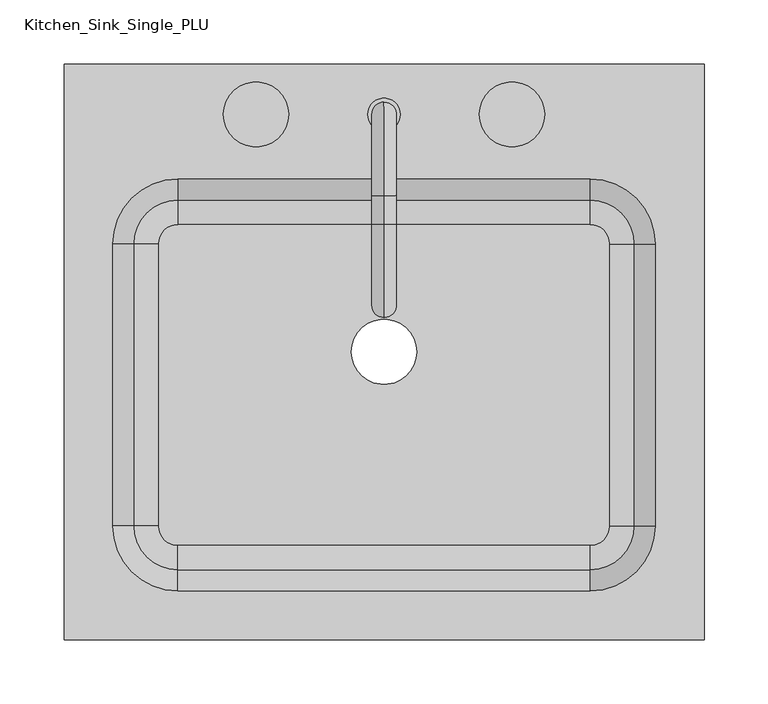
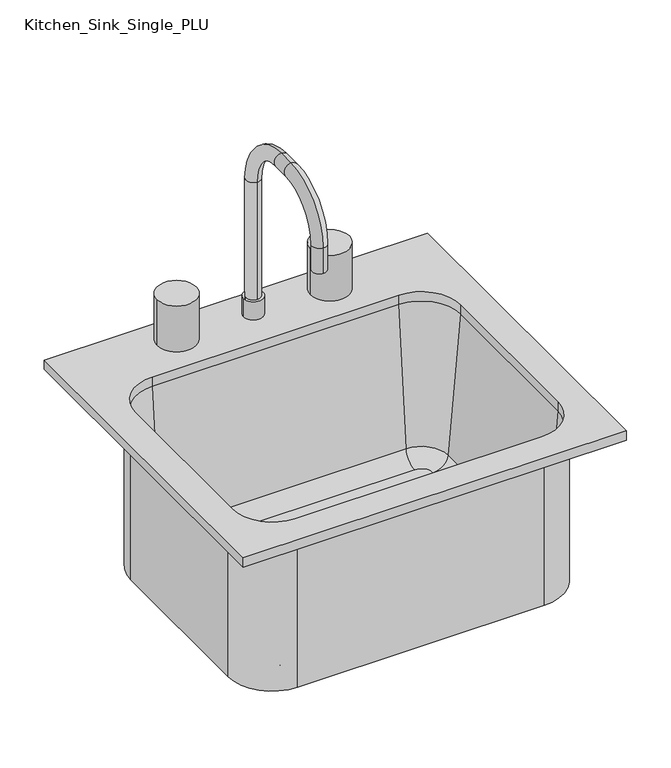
"""IFC4 building model written with IfcOpenShell, lengths in millimetres: flow terminal geometry, Kitchen_Sink_Single_PLU : Kitchen  Sink."""

from ifc_helpers import new_model, si_unit, point, frame, frame_2d, origin, origin_with_axes, place, context, project, spatial, polyline, circle_curve, ellipse_curve, trimmed, segment, composite_curve, outline, extrude, source, transform, mapped, element, save
from ifc_brep_helpers import plane_surface, cylinder_surface, revolved_surface, advanced_brep


def kitchen_sink_single_plu_7881db86(model_context):
    return source(origin(), model_context, "Body", "SolidModel", [
        extrude(outline(polyline([(250.0, 225.0), (250.0, -225.0), (-250.0, -225.0), (-250.0, 225.0), (250.0, 225.0)]), holes=[composite_curve([segment(polyline([(161.1, 135.0710828), (-161.1, 135.0710828)]), True, "CONTINUOUS"), segment(trimmed(circle_curve(frame_2d((-161.1, 84.2710828)), 50.8), [point((-161.1, 135.0710828))], [point((-211.9, 84.2710828))], True, "CARTESIAN"), True, "CONTINUOUS"), segment(polyline([(-211.9, 84.2710828), (-211.9, -136.1)]), True, "CONTINUOUS"), segment(trimmed(circle_curve(frame_2d((-161.1, -136.1)), 50.8), [point((-211.9, -136.1))], [point((-161.1, -186.9))], True, "CARTESIAN"), True, "CONTINUOUS"), segment(polyline([(-161.1, -186.9), (161.1, -186.9)]), True, "CONTINUOUS"), segment(trimmed(circle_curve(frame_2d((161.1, -136.1)), 50.8), [point((161.1, -186.9))], [point((211.9, -136.1))], True, "CARTESIAN"), True, "CONTINUOUS"), segment(polyline([(211.9, -136.1), (211.9, 84.2710828)]), True, "CONTINUOUS"), segment(trimmed(circle_curve(frame_2d((161.1, 84.2710828)), 50.8), [point((211.9, 84.2710828))], [point((161.1, 135.0710828))], True, "CARTESIAN"), True, "CONTINUOUS")], self_intersect=False)]), origin_with_axes(), (0.0, 0.0, 1.0), 12.7),
        extrude(outline(composite_curve([segment(trimmed(circle_curve(frame_2d((0.0, 185.59958)), 12.7), [point((-12.7, 185.59958))], [point((12.7, 185.59958))], False, "CARTESIAN"), True, "CONTINUOUS"), segment(trimmed(circle_curve(frame_2d((0.0, 185.59958)), 12.7), [point((12.7, 185.59958))], [point((-12.7, 185.59958))], False, "CARTESIAN"), True, "CONTINUOUS")], self_intersect=False)), frame((0.0, 0.0, 12.7), z_axis=(0.0, 0.0, 1.0), x_axis=(1.0, 0.0, 0.0)), (0.0, 0.0, 1.0), 25.4),
        advanced_brep(
        [(0.0, 195.12458, 12.7), (0.0, 176.07458, 12.7), (0.0, 195.12458, 200.025), (0.0, 176.07458, 200.025), (0.0, 122.09958, 254.0), (0.0, 122.09958, 273.05), (0.0, 99.87458, 273.05), (0.0, 99.87458, 254.0), (0.0, 45.89958, 200.025), (0.0, 26.84958, 200.025), (0.0, 26.84958, 165.1), (0.0, 45.89958, 165.1)],
        [
            (0, 1, circle_curve(frame((0.0, 185.59958, 12.7), z_axis=(0.0, 0.0, -1.0), x_axis=(0.0, -1.0, 0.0)), 9.525)),
            (1, 0, circle_curve(frame((0.0, 185.59958, 12.7), z_axis=(0.0, 0.0, -1.0), x_axis=(0.0, -1.0, 0.0)), 9.525)),
            (0, 2),
            (2, 3, circle_curve(frame((0.0, 185.59958, 200.025), z_axis=(0.0, 0.0, -1.0), x_axis=(0.0, -1.0, 0.0)), 9.525)),
            (3, 1),
            (3, 2, circle_curve(frame((0.0, 185.59958, 200.025), z_axis=(0.0, 0.0, -1.0), x_axis=(0.0, -1.0, 0.0)), 9.525)),
            (4, 3, circle_curve(frame((0.0, 122.09958, 200.025), z_axis=(-1.0, 0.0, 0.0), x_axis=(0.0, 1.0, 0.0)), 53.975)),
            (2, 5, circle_curve(frame((0.0, 122.09958, 200.025), z_axis=(1.0, 0.0, 0.0), x_axis=(0.0, 1.0, 0.0)), 73.025)),
            (5, 4, circle_curve(frame((0.0, 122.09958, 263.525), z_axis=(0.0, 1.0, 0.0), x_axis=(0.0, 0.0, -1.0)), 9.525)),
            (4, 5, circle_curve(frame((0.0, 122.09958, 263.525), z_axis=(0.0, 1.0, 0.0), x_axis=(0.0, 0.0, -1.0)), 9.525)),
            (5, 6),
            (6, 7, circle_curve(frame((0.0, 99.87458, 263.525), z_axis=(0.0, 1.0, 0.0), x_axis=(0.0, 0.0, -1.0)), 9.525)),
            (7, 4),
            (7, 6, circle_curve(frame((0.0, 99.87458, 263.525), z_axis=(0.0, 1.0, 0.0), x_axis=(0.0, 0.0, -1.0)), 9.525)),
            (8, 7, circle_curve(frame((0.0, 99.87458, 200.025), z_axis=(-1.0, 0.0, 0.0), x_axis=(0.0, 0.0, 1.0)), 53.975)),
            (6, 9, circle_curve(frame((0.0, 99.87458, 200.025), z_axis=(1.0, 0.0, 0.0), x_axis=(0.0, 0.0, 1.0)), 73.025)),
            (9, 8, circle_curve(frame((0.0, 36.37458, 200.025), z_axis=(0.0, 0.0, 1.0), x_axis=(0.0, 1.0, 0.0)), 9.525)),
            (8, 9, circle_curve(frame((0.0, 36.37458, 200.025), z_axis=(0.0, 0.0, 1.0), x_axis=(0.0, 1.0, 0.0)), 9.525)),
            (10, 11, circle_curve(frame((0.0, 36.37458, 165.1), z_axis=(0.0, 0.0, -1.0), x_axis=(0.0, 1.0, 0.0)), 9.525)),
            (11, 10, circle_curve(frame((0.0, 36.37458, 165.1), z_axis=(0.0, 0.0, -1.0), x_axis=(0.0, 1.0, 0.0)), 9.525)),
            (9, 10),
            (11, 8),
        ],
        [
            plane_surface(frame((0.0, 176.07458, 12.7), z_axis=(0.0, 0.0, -1.0), x_axis=(1.0, 0.0, 0.0))),
            cylinder_surface(frame((0.0, 185.59958, 12.7), z_axis=(0.0, 0.0, -1.0), x_axis=(0.0, -1.0, 0.0)), 9.525),
            revolved_surface(trimmed(ellipse_curve(frame((0.0, 185.59958, 200.025), z_axis=(0.0, 0.0, -1.0), x_axis=(0.0, -1.0, 0.0)), 9.525, 9.525), [point((0.0, 195.12458, 200.025))], [point((0.0, 176.07458, 200.025))], True, "CARTESIAN"), (0.0, 122.09958, 200.025), (1.0, 0.0, 0.0)),
            revolved_surface(trimmed(ellipse_curve(frame((0.0, 185.59958, 200.025), z_axis=(0.0, 0.0, -1.0), x_axis=(0.0, -1.0, 0.0)), 9.525, 9.525), [point((0.0, 176.07458, 200.025))], [point((0.0, 195.12458, 200.025))], True, "CARTESIAN"), (0.0, 122.09958, 200.025), (1.0, 0.0, 0.0)),
            cylinder_surface(frame((0.0, 122.09958, 263.525), z_axis=(0.0, 1.0, 0.0), x_axis=(0.0, 0.0, -1.0)), 9.525),
            revolved_surface(trimmed(ellipse_curve(frame((0.0, 99.87458, 263.525), z_axis=(0.0, 1.0, 0.0), x_axis=(0.0, 0.0, -1.0)), 9.525, 9.525), [point((0.0, 99.87458, 273.05))], [point((0.0, 99.87458, 254.0))], True, "CARTESIAN"), (0.0, 99.87458, 200.025), (1.0, 0.0, 0.0)),
            revolved_surface(trimmed(ellipse_curve(frame((0.0, 99.87458, 263.525), z_axis=(0.0, 1.0, 0.0), x_axis=(0.0, 0.0, -1.0)), 9.525, 9.525), [point((0.0, 99.87458, 254.0))], [point((0.0, 99.87458, 273.05))], True, "CARTESIAN"), (0.0, 99.87458, 200.025), (1.0, 0.0, 0.0)),
            plane_surface(frame((0.0, 26.84958, 165.1), z_axis=(0.0, 0.0, -1.0), x_axis=(-1.0, 0.0, 0.0))),
            cylinder_surface(frame((0.0, 36.37458, 200.025), z_axis=(0.0, 0.0, 1.0), x_axis=(0.0, 1.0, 0.0)), 9.525),
        ],
        [
            (0, [[1, 2]]),
            (1, [[-1, 3, 4, 5]]),
            (1, [[-2, -5, 6, -3]]),
            (2, [[7, -4, 8, 9]]),
            (3, [[-8, -6, -7, 10]]),
            (4, [[-9, 11, 12, 13]]),
            (4, [[-10, -13, 14, -11]]),
            (5, [[15, -12, 16, 17]]),
            (6, [[-16, -14, -15, 18]]),
            (7, [[19, 20]]),
            (8, [[-17, 21, -20, 22]]),
            (8, [[-18, -22, -19, -21]]),
        ],
    ),
        extrude(outline(composite_curve([segment(trimmed(circle_curve(frame_2d((-100.0, 185.59958)), 25.4), [point((-125.4, 185.59958))], [point((-74.6, 185.59958))], False, "CARTESIAN"), True, "CONTINUOUS"), segment(trimmed(circle_curve(frame_2d((-100.0, 185.59958)), 25.4), [point((-74.6, 185.59958))], [point((-125.4, 185.59958))], False, "CARTESIAN"), True, "CONTINUOUS")], self_intersect=False)), frame((0.0, 0.0, 12.7), z_axis=(0.0, 0.0, 1.0), x_axis=(1.0, 0.0, 0.0)), (0.0, 0.0, 1.0), 63.5),
        extrude(outline(composite_curve([segment(trimmed(circle_curve(frame_2d((100.0, 185.59958)), 25.4), [point((74.6, 185.59958))], [point((125.4, 185.59958))], False, "CARTESIAN"), True, "CONTINUOUS"), segment(trimmed(circle_curve(frame_2d((100.0, 185.59958)), 25.4), [point((125.4, 185.59958))], [point((74.6, 185.59958))], False, "CARTESIAN"), True, "CONTINUOUS")], self_intersect=False)), frame((0.0, 0.0, 12.7), z_axis=(0.0, 0.0, 1.0), x_axis=(1.0, 0.0, 0.0)), (0.0, 0.0, 1.0), 63.5),
        advanced_brep(
        [(218.25, 84.2710828, -215.9), (161.1, 141.4210828, -215.9), (161.1, 141.4210828, 0.0), (218.25, 84.2710828, 0.0), (195.3659272, 84.2710828, -188.9853169), (161.1, 118.53701, -188.9853169), (161.1, 99.559501, -206.375), (176.3884182, 84.2710828, -206.375), (211.9, 84.2710828, 0.0), (161.1, 135.0710828, 0.0), (218.25, -136.1, 0.0), (218.25, -136.1, -215.9), (176.3884182, -136.1, -206.375), (195.3659272, -136.1, -188.9853169), (211.9, -136.1, 0.0), (161.1, -193.25, 0.0), (161.1, -193.25, -215.9), (161.1, -151.3884182, -206.375), (161.1, -170.3659272, -188.9853169), (161.1, -186.9, 0.0), (-161.1, -193.25, 0.0), (-161.1, -193.25, -215.9), (-161.1, -151.3884182, -206.375), (-161.1, -170.3659272, -188.9853169), (-161.1, -186.9, 0.0), (-218.25, -136.1, 0.0), (-218.25, -136.1, -215.9), (-176.3884182, -136.1, -206.375), (-195.3659272, -136.1, -188.9853169), (-211.9, -136.1, 0.0), (-218.25, 84.2710828, 0.0), (-218.25, 84.2710828, -215.9), (-176.3884182, 84.2710828, -206.375), (-195.3659272, 84.2710828, -188.9853169), (-211.9, 84.2710828, 0.0), (-161.1, 141.4210828, 0.0), (-161.1, 141.4210828, -215.9), (-161.1, 99.559501, -206.375), (-161.1, 118.53701, -188.9853169), (-161.1, 135.0710828, 0.0), (-25.4, 0.0, -215.9), (25.4, 0.0, -215.9), (-25.4, 0.0, -206.375), (25.4, 0.0, -206.375)],
        [
            (0, 1, circle_curve(frame((161.1, 84.2710828, -215.9), z_axis=(0.0, 0.0, 1.0), x_axis=(0.0, 1.0, 0.0)), 57.15)),
            (1, 2),
            (2, 3, circle_curve(frame((161.1, 84.2710828, 0.0), z_axis=(0.0, 0.0, -1.0), x_axis=(0.0, 1.0, 0.0)), 57.15)),
            (3, 0),
            (4, 5, circle_curve(frame((161.1, 84.2710828, -188.9853169), z_axis=(0.0, 0.0, 1.0), x_axis=(0.0, 1.0, 0.0)), 34.2659272)),
            (5, 6, circle_curve(frame((161.1, 99.559501, -187.325), z_axis=(-1.0, 0.0, 0.0), x_axis=(0.0, 1.0, 0.0)), 19.05)),
            (6, 7, circle_curve(frame((161.1, 84.2710828, -206.375), z_axis=(0.0, 0.0, -1.0), x_axis=(0.0, 1.0, 0.0)), 15.2884182)),
            (7, 4, circle_curve(frame((176.3884182, 84.2710828, -187.325), z_axis=(0.0, -1.0, 0.0), x_axis=(1.0, 0.0, 0.0)), 19.05)),
            (4, 8),
            (8, 9, circle_curve(frame((161.1, 84.2710828, 0.0), z_axis=(0.0, 0.0, 1.0), x_axis=(0.0, 1.0, 0.0)), 50.8)),
            (9, 5),
            (3, 10),
            (10, 11),
            (11, 0),
            (7, 12),
            (12, 13, circle_curve(frame((176.3884182, -136.1, -187.325), z_axis=(0.0, -1.0, 0.0), x_axis=(1.0, 0.0, 0.0)), 19.05)),
            (13, 4),
            (13, 14),
            (14, 8),
            (10, 15, circle_curve(frame((161.1, -136.1, 0.0), z_axis=(0.0, 0.0, -1.0), x_axis=(1.0, 0.0, 0.0)), 57.15)),
            (15, 16),
            (16, 11, circle_curve(frame((161.1, -136.1, -215.9), z_axis=(0.0, 0.0, 1.0), x_axis=(1.0, 0.0, 0.0)), 57.15)),
            (12, 17, circle_curve(frame((161.1, -136.1, -206.375), z_axis=(0.0, 0.0, -1.0), x_axis=(1.0, 0.0, 0.0)), 15.2884182)),
            (17, 18, circle_curve(frame((161.1, -151.3884182, -187.325), z_axis=(-1.0, 0.0, 0.0), x_axis=(0.0, -1.0, 0.0)), 19.05)),
            (18, 13, circle_curve(frame((161.1, -136.1, -188.9853169), z_axis=(0.0, 0.0, 1.0), x_axis=(1.0, 0.0, 0.0)), 34.2659272)),
            (18, 19),
            (19, 14, circle_curve(frame((161.1, -136.1, 0.0), z_axis=(0.0, 0.0, 1.0), x_axis=(1.0, 0.0, 0.0)), 50.8)),
            (15, 20),
            (20, 21),
            (21, 16),
            (17, 22),
            (22, 23, circle_curve(frame((-161.1, -151.3884182, -187.325), z_axis=(-1.0, 0.0, 0.0), x_axis=(0.0, -1.0, 0.0)), 19.05)),
            (23, 18),
            (23, 24),
            (24, 19),
            (20, 25, circle_curve(frame((-161.1, -136.1, 0.0), z_axis=(0.0, 0.0, -1.0), x_axis=(0.0, -1.0, 0.0)), 57.15)),
            (25, 26),
            (26, 21, circle_curve(frame((-161.1, -136.1, -215.9), z_axis=(0.0, 0.0, 1.0), x_axis=(0.0, -1.0, 0.0)), 57.15)),
            (22, 27, circle_curve(frame((-161.1, -136.1, -206.375), z_axis=(0.0, 0.0, -1.0), x_axis=(0.0, -1.0, 0.0)), 15.2884182)),
            (27, 28, circle_curve(frame((-176.3884182, -136.1, -187.325), z_axis=(0.0, 1.0, 0.0), x_axis=(-1.0, 0.0, 0.0)), 19.05)),
            (28, 23, circle_curve(frame((-161.1, -136.1, -188.9853169), z_axis=(0.0, 0.0, 1.0), x_axis=(0.0, -1.0, 0.0)), 34.2659272)),
            (28, 29),
            (29, 24, circle_curve(frame((-161.1, -136.1, 0.0), z_axis=(0.0, 0.0, 1.0), x_axis=(0.0, -1.0, 0.0)), 50.8)),
            (25, 30),
            (30, 31),
            (31, 26),
            (27, 32),
            (32, 33, circle_curve(frame((-176.3884182, 84.2710828, -187.325), z_axis=(0.0, 1.0, 0.0), x_axis=(-1.0, 0.0, 0.0)), 19.05)),
            (33, 28),
            (33, 34),
            (34, 29),
            (30, 35, circle_curve(frame((-161.1, 84.2710828, 0.0), z_axis=(0.0, 0.0, -1.0), x_axis=(-1.0, 0.0, 0.0)), 57.15)),
            (35, 36),
            (36, 31, circle_curve(frame((-161.1, 84.2710828, -215.9), z_axis=(0.0, 0.0, 1.0), x_axis=(-1.0, 0.0, 0.0)), 57.15)),
            (32, 37, circle_curve(frame((-161.1, 84.2710828, -206.375), z_axis=(0.0, 0.0, -1.0), x_axis=(-1.0, 0.0, 0.0)), 15.2884182)),
            (37, 38, circle_curve(frame((-161.1, 99.559501, -187.325), z_axis=(1.0, 0.0, 0.0), x_axis=(0.0, 1.0, 0.0)), 19.05)),
            (38, 33, circle_curve(frame((-161.1, 84.2710828, -188.9853169), z_axis=(0.0, 0.0, 1.0), x_axis=(-1.0, 0.0, 0.0)), 34.2659272)),
            (38, 39),
            (39, 34, circle_curve(frame((-161.1, 84.2710828, 0.0), z_axis=(0.0, 0.0, 1.0), x_axis=(-1.0, 0.0, 0.0)), 50.8)),
            (1, 36),
            (35, 2),
            (40, 41, circle_curve(frame((0.0, 0.0, -215.9), z_axis=(0.0, 0.0, 1.0), x_axis=(1.0, 0.0, 0.0)), 25.4)),
            (41, 40, circle_curve(frame((0.0, 0.0, -215.9), z_axis=(0.0, 0.0, 1.0), x_axis=(1.0, 0.0, 0.0)), 25.4)),
            (6, 37),
            (42, 43, circle_curve(frame((0.0, 0.0, -206.375), z_axis=(0.0, 0.0, -1.0), x_axis=(1.0, 0.0, 0.0)), 25.4)),
            (43, 42, circle_curve(frame((0.0, 0.0, -206.375), z_axis=(0.0, 0.0, -1.0), x_axis=(1.0, 0.0, 0.0)), 25.4)),
            (5, 38),
            (9, 39),
            (42, 40),
            (41, 43),
        ],
        [
            cylinder_surface(frame((161.1, 84.2710828, 0.0), z_axis=(0.0, 0.0, -1.0), x_axis=(0.0, 1.0, 0.0)), 57.15),
            revolved_surface(trimmed(ellipse_curve(frame((161.1, 99.559501, -187.325), z_axis=(1.0, 0.0, 0.0), x_axis=(0.0, 1.0, 0.0)), 19.05, 19.05), [point((161.1, 99.559501, -206.375))], [point((161.1, 118.53701, -188.9853169))], True, "CARTESIAN"), (161.1, 84.2710828, 0.0), (0.0, 0.0, -1.0)),
            revolved_surface(polyline([(161.1, 118.53701, -188.9853169), (161.1, 135.0710828, 0.0)]), (161.1, 84.2710828, 0.0), (0.0, 0.0, -1.0)),
            plane_surface(frame((218.25, 84.2710828, 0.0), z_axis=(1.0, 0.0, 0.0), x_axis=(0.0, -1.0, 0.0))),
            revolved_surface(polyline([(195.4384182, -136.10000000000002, -187.325), (195.4384182, 84.2710828, -187.325)]), (176.3884182, 84.2710828, -187.325), (0.0, -1.0, 0.0)),
            plane_surface(frame((195.3659272, 84.2710828, -188.9853169), z_axis=(-0.9961946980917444, 0.0, 0.08715574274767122), x_axis=(0.0, -1.0, 0.0))),
            cylinder_surface(frame((161.1, -136.1, 0.0), z_axis=(0.0, 0.0, -1.0), x_axis=(1.0, 0.0, 0.0)), 57.15),
            revolved_surface(trimmed(ellipse_curve(frame((176.3884182, -136.1, -187.325), z_axis=(0.0, -1.0, 0.0), x_axis=(1.0, 0.0, 0.0)), 19.05, 19.05), [point((176.3884182, -136.1, -206.375))], [point((195.3659272, -136.1, -188.9853169))], True, "CARTESIAN"), (161.1, -136.1, 0.0), (0.0, 0.0, -1.0)),
            revolved_surface(polyline([(195.3659272, -136.1, -188.9853169), (211.9, -136.1, 0.0)]), (161.1, -136.1, 0.0), (0.0, 0.0, -1.0)),
            plane_surface(frame((161.1, -193.25, 0.0), z_axis=(0.0, -1.0, 0.0), x_axis=(-1.0, 0.0, 0.0))),
            revolved_surface(polyline([(-161.1, -170.4384182, -187.325), (161.1, -170.4384182, -187.325)]), (161.1, -151.3884182, -187.325), (-1.0, 0.0, 0.0)),
            plane_surface(frame((161.1, -170.3659272, -188.9853169), z_axis=(0.0, 0.9961946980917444, 0.08715574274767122), x_axis=(-1.0, 0.0, 0.0))),
            cylinder_surface(frame((-161.1, -136.1, 0.0), z_axis=(0.0, 0.0, -1.0), x_axis=(0.0, -1.0, 0.0)), 57.15),
            revolved_surface(trimmed(ellipse_curve(frame((-161.1, -151.3884182, -187.325), z_axis=(-1.0, 0.0, 0.0), x_axis=(0.0, -1.0, 0.0)), 19.05, 19.05), [point((-161.1, -151.3884182, -206.375))], [point((-161.1, -170.3659272, -188.9853169))], True, "CARTESIAN"), (-161.1, -136.1, 0.0), (0.0, 0.0, -1.0)),
            revolved_surface(polyline([(-161.1, -170.3659272, -188.9853169), (-161.1, -186.9, 0.0)]), (-161.1, -136.1, 0.0), (0.0, 0.0, -1.0)),
            plane_surface(frame((-218.25, -136.1, 0.0), z_axis=(-1.0, 0.0, 0.0), x_axis=(0.0, 1.0, 0.0))),
            revolved_surface(polyline([(-195.4384182, 84.27108280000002, -187.325), (-195.4384182, -136.1, -187.325)]), (-176.3884182, -136.1, -187.325), (0.0, 1.0, 0.0)),
            plane_surface(frame((-195.3659272, -136.1, -188.9853169), z_axis=(0.9961946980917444, 0.0, 0.08715574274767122), x_axis=(0.0, 1.0, 0.0))),
            cylinder_surface(frame((-161.1, 84.2710828, 0.0), z_axis=(0.0, 0.0, -1.0), x_axis=(-1.0, 0.0, 0.0)), 57.15),
            revolved_surface(trimmed(ellipse_curve(frame((-176.3884182, 84.2710828, -187.325), z_axis=(0.0, 1.0, 0.0), x_axis=(-1.0, 0.0, 0.0)), 19.05, 19.05), [point((-176.3884182, 84.2710828, -206.375))], [point((-195.3659272, 84.2710828, -188.9853169))], True, "CARTESIAN"), (-161.1, 84.2710828, 0.0), (0.0, 0.0, -1.0)),
            revolved_surface(polyline([(-195.3659272, 84.2710828, -188.9853169), (-211.9, 84.2710828, 0.0)]), (-161.1, 84.2710828, 0.0), (0.0, 0.0, -1.0)),
            plane_surface(frame((-161.1, 141.4210828, 0.0), z_axis=(0.0, 1.0, 0.0), x_axis=(1.0, 0.0, 0.0))),
            plane_surface(frame((-161.1, 141.4210828, -215.9), z_axis=(0.0, 0.0, -1.0), x_axis=(1.0, 0.0, 0.0))),
            plane_surface(frame((-161.1, 96.9710828, -206.375), z_axis=(0.0, 0.0, 1.0), x_axis=(1.0, 0.0, 0.0))),
            revolved_surface(polyline([(161.1, 118.609501, -187.325), (-161.1, 118.609501, -187.325)]), (-161.1, 99.559501, -187.325), (1.0, 0.0, 0.0)),
            plane_surface(frame((-161.1, 118.53701, -188.9853169), z_axis=(0.0, -0.9961946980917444, 0.08715574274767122), x_axis=(1.0, 0.0, 0.0))),
            plane_surface(frame((-161.1, 135.0710828, 0.0), z_axis=(0.0, 0.0, 1.0), x_axis=(1.0, 0.0, 0.0))),
            revolved_surface(polyline([(25.4, 0.0, -215.89999999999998), (25.4, 0.0, -206.375)]), (0.0, 0.0, -900.0), (0.0, 0.0, -1.0)),
        ],
        [
            (0, [[1, 2, 3, 4]]),
            (1, [[5, 6, 7, 8]]),
            (2, [[-5, 9, 10, 11]]),
            (3, [[-4, 12, 13, 14]]),
            (4, [[-8, 15, 16, 17]]),
            (5, [[-9, -17, 18, 19]]),
            (6, [[-13, 20, 21, 22]]),
            (7, [[-16, 23, 24, 25]]),
            (8, [[-18, -25, 26, 27]]),
            (9, [[-21, 28, 29, 30]]),
            (10, [[-24, 31, 32, 33]]),
            (11, [[-26, -33, 34, 35]]),
            (12, [[-29, 36, 37, 38]]),
            (13, [[-32, 39, 40, 41]]),
            (14, [[-34, -41, 42, 43]]),
            (15, [[-37, 44, 45, 46]]),
            (16, [[-40, 47, 48, 49]]),
            (17, [[-42, -49, 50, 51]]),
            (18, [[-45, 52, 53, 54]]),
            (19, [[-48, 55, 56, 57]]),
            (20, [[-50, -57, 58, 59]]),
            (21, [[-2, 60, -53, 61]]),
            (22, [[-1, -14, -22, -30, -38, -46, -54, -60], [62, 63]]),
            (23, [[-7, 64, -55, -47, -39, -31, -23, -15], [65, 66]]),
            (24, [[-6, 67, -56, -64]]),
            (25, [[-11, 68, -58, -67]]),
            (26, [[-3, -61, -52, -44, -36, -28, -20, -12], [-10, -19, -27, -35, -43, -51, -59, -68]]),
            (27, [[-65, 69, -63, 70]]),
            (27, [[-66, -70, -62, -69]]),
        ],
    ),
    ])


if __name__ == "__main__":
    model = new_model("IFC4")
    model_context = context("Model", 3, world=origin())
    ifc_project = project(units=[si_unit("LENGTHUNIT", "METRE", prefix="MILLI")], contexts=[model_context])
    site = spatial("IfcSite", under=ifc_project)
    building = spatial("IfcBuilding", under=site)
    placement = place(None, origin())
    kitchen_sink_single_plu_shape = kitchen_sink_single_plu_7881db86(model_context)
    element("IfcFlowTerminal", 1, ObjectType="Kitchen_Sink_Single_PLU : Kitchen  Sink", at=placement, inside=building, context=model_context, shape_type="MappedRepresentation", body=[
        mapped(kitchen_sink_single_plu_shape, transform((0.0, 0.0, 0.0), x_axis=(1.0, 0.0, 0.0), y_axis=(0.0, 1.0, 0.0), z_axis=(0.0, 0.0, 1.0))),
    ])
    save(model, "model.ifc")
